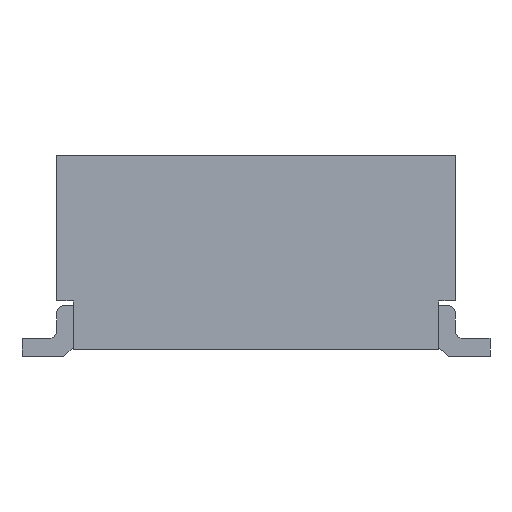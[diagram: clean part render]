
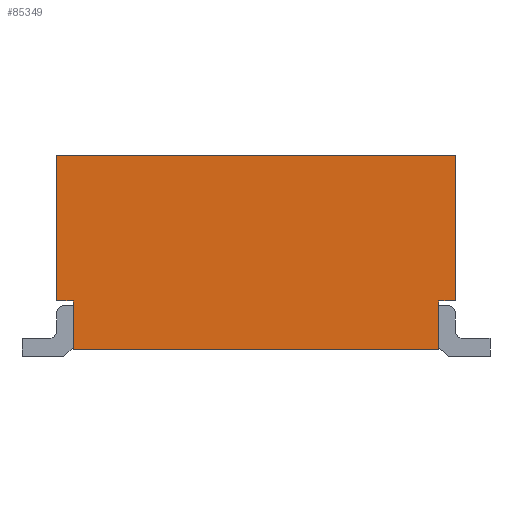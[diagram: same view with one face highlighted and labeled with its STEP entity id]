
A CAD part, left-side view. The second image highlights one B-rep face of the part: STEP entity #85349.
In plain terms, the highlighted planar face has unit normal (-1, 0, 0).
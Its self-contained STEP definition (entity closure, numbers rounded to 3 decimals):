
#3744 = CARTESIAN_POINT ( 'NONE',  ( -11.3, -1.32, 0.4 ) ) ;
#4203 = VERTEX_POINT ( 'NONE', #89028 ) ;
#4846 = EDGE_CURVE ( 'NONE', #43518, #104511, #7775, .T. ) ;
#5273 = DIRECTION ( 'NONE',  ( 0., 1., 0. ) ) ;
#5512 = EDGE_CURVE ( 'NONE', #86429, #104511, #75251, .T. ) ;
#7696 = LINE ( 'NONE', #78262, #11824 ) ;
#7775 = LINE ( 'NONE', #98041, #62322 ) ;
#9392 = EDGE_CURVE ( 'NONE', #97547, #21218, #32026, .T. ) ;
#9468 = VECTOR ( 'NONE', #41407, 1000. ) ;
#11824 = VECTOR ( 'NONE', #34185, 1000. ) ;
#12962 = LINE ( 'NONE', #57560, #20691 ) ;
#14765 = CARTESIAN_POINT ( 'NONE',  ( -11.3, 1.32, 0.05 ) ) ;
#17625 = ORIENTED_EDGE ( 'NONE', *, *, #9392, .T. ) ;
#18286 = DIRECTION ( 'NONE',  ( 0., -1., 0. ) ) ;
#18858 = EDGE_CURVE ( 'NONE', #97547, #86429, #65115, .T. ) ;
#20691 = VECTOR ( 'NONE', #59283, 1000. ) ;
#21218 = VERTEX_POINT ( 'NONE', #90537 ) ;
#22249 = CARTESIAN_POINT ( 'NONE',  ( -11.3, -1.44, 1.45 ) ) ;
#25923 = FACE_OUTER_BOUND ( 'NONE', #101519, .T. ) ;
#28613 = ORIENTED_EDGE ( 'NONE', *, *, #61254, .F. ) ;
#32026 = LINE ( 'NONE', #22249, #97409 ) ;
#32868 = CARTESIAN_POINT ( 'NONE',  ( -11.3, -1.32, 0.05 ) ) ;
#34185 = DIRECTION ( 'NONE',  ( 0., -1., 0. ) ) ;
#37189 = VERTEX_POINT ( 'NONE', #58420 ) ;
#37634 = EDGE_CURVE ( 'NONE', #21218, #4203, #12962, .T. ) ;
#38746 = CARTESIAN_POINT ( 'NONE',  ( -11.3, -1.44, 0.4 ) ) ;
#41407 = DIRECTION ( 'NONE',  ( 0., 0., 1. ) ) ;
#41522 = AXIS2_PLACEMENT_3D ( 'NONE', #32868, #104693, #60701 ) ;
#43518 = VERTEX_POINT ( 'NONE', #83456 ) ;
#45722 = ORIENTED_EDGE ( 'NONE', *, *, #5512, .F. ) ;
#48507 = ORIENTED_EDGE ( 'NONE', *, *, #106872, .T. ) ;
#51035 = VECTOR ( 'NONE', #53513, 1000. ) ;
#53513 = DIRECTION ( 'NONE',  ( 0., 0., -1. ) ) ;
#54658 = CARTESIAN_POINT ( 'NONE',  ( -11.3, -1.44, 1.45 ) ) ;
#54674 = ORIENTED_EDGE ( 'NONE', *, *, #4846, .T. ) ;
#57560 = CARTESIAN_POINT ( 'NONE',  ( -11.3, 1.44, 1.45 ) ) ;
#57608 = DIRECTION ( 'NONE',  ( 0., 1., 0. ) ) ;
#58420 = CARTESIAN_POINT ( 'NONE',  ( -11.3, 1.32, 0.05 ) ) ;
#59283 = DIRECTION ( 'NONE',  ( 0., 0., -1. ) ) ;
#60701 = DIRECTION ( 'NONE',  ( 0., 1., 0. ) ) ;
#60790 = ORIENTED_EDGE ( 'NONE', *, *, #107477, .T. ) ;
#61254 = EDGE_CURVE ( 'NONE', #37189, #90179, #102792, .T. ) ;
#62322 = VECTOR ( 'NONE', #113645, 1000. ) ;
#64050 = LINE ( 'NONE', #79113, #104353 ) ;
#65115 = LINE ( 'NONE', #54658, #51035 ) ;
#75251 = LINE ( 'NONE', #38746, #75392 ) ;
#75392 = VECTOR ( 'NONE', #5273, 1000. ) ;
#78262 = CARTESIAN_POINT ( 'NONE',  ( -11.3, 1.32, 0.05 ) ) ;
#79113 = CARTESIAN_POINT ( 'NONE',  ( -11.3, 1.44, 0.4 ) ) ;
#81533 = CARTESIAN_POINT ( 'NONE',  ( -11.3, -1.44, 0.4 ) ) ;
#83456 = CARTESIAN_POINT ( 'NONE',  ( -11.3, -1.32, 0.05 ) ) ;
#83798 = ORIENTED_EDGE ( 'NONE', *, *, #37634, .T. ) ;
#85349 = ADVANCED_FACE ( 'NONE', ( #25923 ), #113340, .T. ) ;
#86429 = VERTEX_POINT ( 'NONE', #81533 ) ;
#89028 = CARTESIAN_POINT ( 'NONE',  ( -11.3, 1.44, 0.4 ) ) ;
#90179 = VERTEX_POINT ( 'NONE', #105863 ) ;
#90537 = CARTESIAN_POINT ( 'NONE',  ( -11.3, 1.44, 1.45 ) ) ;
#95073 = CARTESIAN_POINT ( 'NONE',  ( -11.3, -1.44, 1.45 ) ) ;
#97409 = VECTOR ( 'NONE', #57608, 1000. ) ;
#97547 = VERTEX_POINT ( 'NONE', #95073 ) ;
#98041 = CARTESIAN_POINT ( 'NONE',  ( -11.3, -1.32, 0.05 ) ) ;
#101519 = EDGE_LOOP ( 'NONE', ( #60790, #54674, #45722, #109081, #17625, #83798, #48507, #28613 ) ) ;
#102792 = LINE ( 'NONE', #14765, #9468 ) ;
#104353 = VECTOR ( 'NONE', #18286, 1000. ) ;
#104511 = VERTEX_POINT ( 'NONE', #3744 ) ;
#104693 = DIRECTION ( 'NONE',  ( -1., 0., 0. ) ) ;
#105863 = CARTESIAN_POINT ( 'NONE',  ( -11.3, 1.32, 0.4 ) ) ;
#106872 = EDGE_CURVE ( 'NONE', #4203, #90179, #64050, .T. ) ;
#107477 = EDGE_CURVE ( 'NONE', #37189, #43518, #7696, .T. ) ;
#109081 = ORIENTED_EDGE ( 'NONE', *, *, #18858, .F. ) ;
#113340 = PLANE ( 'NONE',  #41522 ) ;
#113645 = DIRECTION ( 'NONE',  ( 0., 0., 1. ) ) ;
